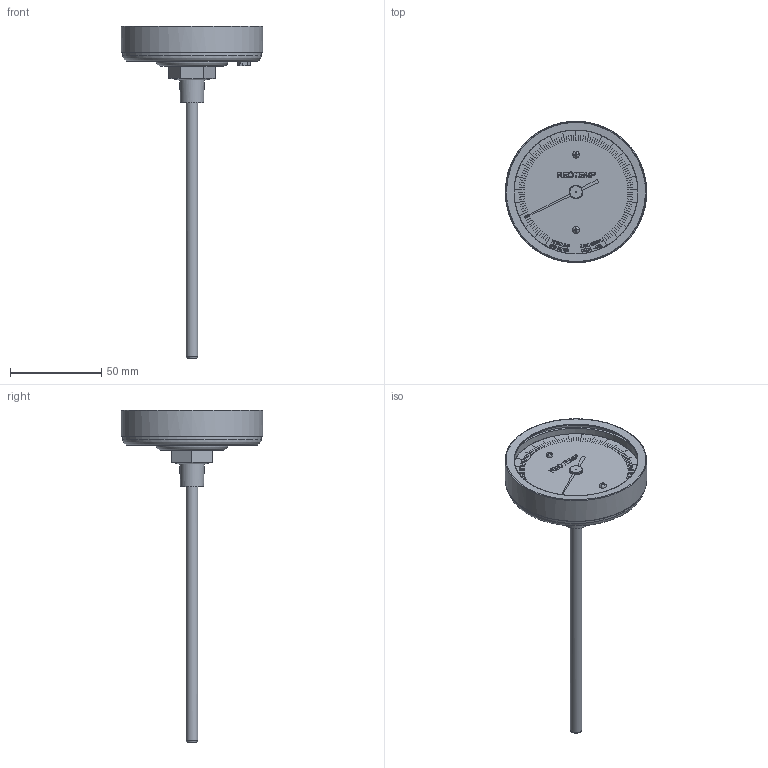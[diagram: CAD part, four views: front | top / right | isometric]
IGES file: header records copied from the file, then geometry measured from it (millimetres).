
Global section: file name: AA-quarter-NPT-IGS; native system: Autodesk Inventor 2014; preprocessor: unknown; author: Charles; date: 20151109.102156; units: inch
Bounding box: 77.47 x 77.46 x 182 mm (x, y, z)
Volume: 41364.4 mm3; surface area: 43639.9 mm2
Topology: 33 solids, 33 shells, 1654 faces, 4748 edges, 3173 vertices
Faces by surface type: bspline 1654
